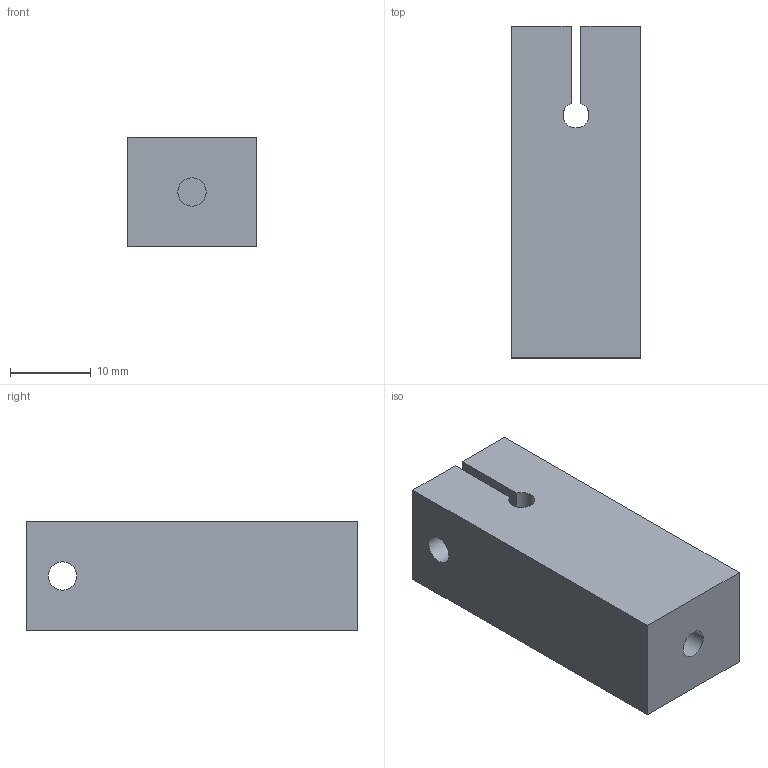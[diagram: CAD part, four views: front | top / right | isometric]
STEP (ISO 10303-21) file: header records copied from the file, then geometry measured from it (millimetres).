
FILE_DESCRIPTION(('Open CASCADE Model'),'2;1');
FILE_NAME('Open CASCADE Shape Model','2026-10-12T22:10:18',('Author'),( 'Open CASCADE'),'Open CASCADE STEP processor 7.9','Open CASCADE 7.9' ,'Unknown');
FILE_SCHEMA(('AUTOMOTIVE_DESIGN { 1 0 10303 214 1 1 1 1 }'));
Length unit declared in the file: millimetre
Products named in the file (1): Open CASCADE STEP translator 7.9 30
Bounding box: 16 x 41 x 13.5 mm (x, y, z)
Volume: 8259.7 mm3; surface area: 3516.3 mm2
Topology: 1 solids, 1 shells, 14 faces, 33 edges, 22 vertices
Faces by surface type: plane 10, cylinder 4
Full cylindrical faces by diameter (mm): 3.5 x3
Entity records: 855 total; most frequent: CARTESIAN_POINT 142, DIRECTION 136, LINE 83, VECTOR 83, ORIENTED_EDGE 66, PCURVE 66, DEFINITIONAL_REPRESENTATION 66, EDGE_CURVE 33
